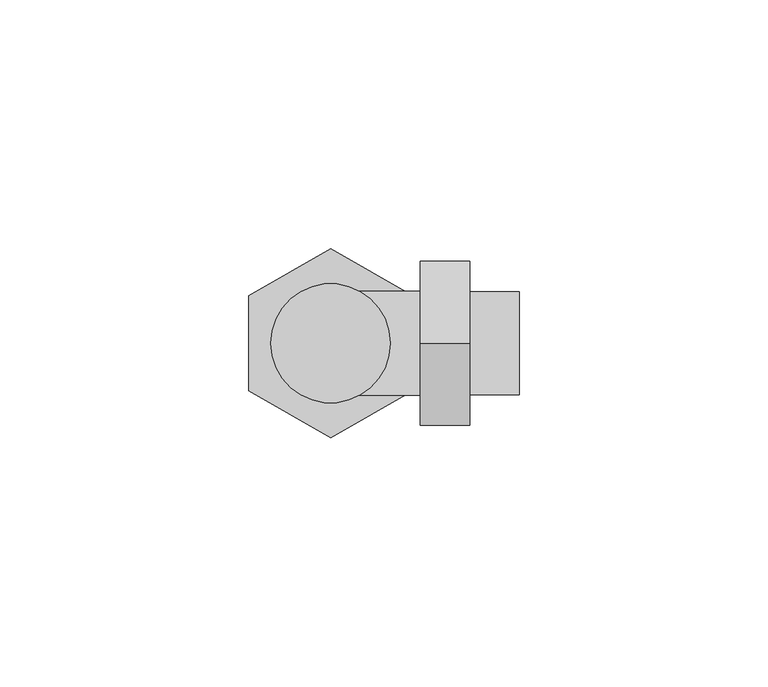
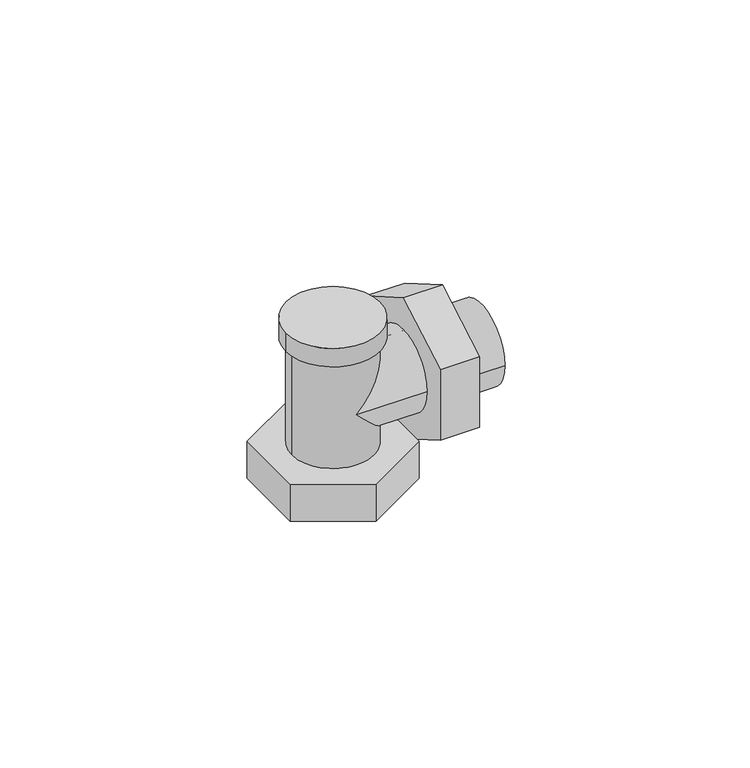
"""IFC4 building model written with IfcOpenShell, lengths in millimetres: pipe fitting geometry, Р_07_Клапан настроечный угловой для радиатора : Белый цвет."""

from ifc_helpers import new_model, si_unit, point, frame, origin, origin_2d, place, context, project, spatial, polyline, circle_curve, ellipse_curve, trimmed, segment, composite_curve, outline, extrude, source, transform, mapped, element, save
from ifc_brep_helpers import plane_surface, cylinder_surface, revolved_surface, advanced_brep


def pipe_fitting_38df7a3a(model_context):
    return source(origin(), model_context, "Body", "SolidModel", [
        advanced_brep(
        [(0.0, 7.9, 0.0), (0.0, -7.9, 0.0), (18.0, -7.9, 0.0), (18.0, 7.9, 0.0), (7.9, 0.0, -7.9), (18.0, -10.5, 0.0), (18.0, 10.5, 0.0), (0.0, -10.5, 0.0), (10.5, 0.0, -10.5), (0.0, 10.5, 0.0), (10.5, 0.0, 10.5), (-12.0, 0.0, 20.0), (12.0, 0.0, 20.0), (-10.5, 0.0, -13.5), (10.5, 0.0, -13.5), (-7.9, 0.0, -13.5), (7.9, 0.0, -13.5), (10.5, 0.0, 15.0), (-10.5, 0.0, 15.0), (-12.0, 0.0, 15.0), (12.0, 0.0, 15.0), (-7.9, 0.0, 0.0)],
        [
            (0, 1, circle_curve(frame((0.0, 0.0, 0.0), z_axis=(1.0, 0.0, 0.0), x_axis=(0.0, 1.0, 0.0)), 7.9)),
            (1, 0),
            (1, 2),
            (2, 3, circle_curve(frame((18.0, 0.0, 0.0), z_axis=(1.0, 0.0, 0.0), x_axis=(0.0, 1.0, 0.0)), 7.9)),
            (3, 0),
            (0, 4, ellipse_curve(frame((0.0, 0.0, 0.0), z_axis=(-0.7071067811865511, 0.0, -0.7071067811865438), x_axis=(0.7071067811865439, 0.0, -0.7071067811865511)), 11.1722871, 7.9)),
            (4, 1, ellipse_curve(frame((0.0, 0.0, 0.0), z_axis=(-0.7071067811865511, 0.0, -0.7071067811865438), x_axis=(0.7071067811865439, 0.0, -0.7071067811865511)), 11.1722871, 7.9)),
            (3, 2, circle_curve(frame((18.0, 0.0, 0.0), z_axis=(1.0, 0.0, 0.0), x_axis=(0.0, 1.0, 0.0)), 7.9)),
            (5, 6, circle_curve(frame((18.0, 0.0, 0.0), z_axis=(1.0, 0.0, 0.0), x_axis=(0.0, 1.0, 0.0)), 10.5)),
            (6, 5, circle_curve(frame((18.0, 0.0, 0.0), z_axis=(1.0, 0.0, 0.0), x_axis=(0.0, 1.0, 0.0)), 10.5)),
            (5, 7),
            (7, 8, ellipse_curve(frame((0.0, 0.0, 0.0), z_axis=(0.7071067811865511, 0.0, 0.7071067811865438), x_axis=(0.7071067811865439, 0.0, -0.7071067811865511)), 14.8492424, 10.5)),
            (8, 9, ellipse_curve(frame((0.0, 0.0, 0.0), z_axis=(0.7071067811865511, 0.0, 0.7071067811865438), x_axis=(0.7071067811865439, 0.0, -0.7071067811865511)), 14.8492424, 10.5)),
            (9, 6),
            (9, 10, ellipse_curve(frame((0.0, 0.0, 0.0), z_axis=(0.7071067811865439, 0.0, -0.7071067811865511), x_axis=(0.7071067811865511, 0.0, 0.7071067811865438)), 14.8492424, 10.5)),
            (10, 7, ellipse_curve(frame((0.0, 0.0, 0.0), z_axis=(0.7071067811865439, 0.0, -0.7071067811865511), x_axis=(0.7071067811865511, 0.0, 0.7071067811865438)), 14.8492424, 10.5)),
            (11, 12, circle_curve(frame((0.0, 0.0, 20.0), z_axis=(0.0, 0.0, 1.0), x_axis=(1.0, 0.0, 0.0)), 12.0)),
            (12, 11, circle_curve(frame((0.0, 0.0, 20.0), z_axis=(0.0, 0.0, 1.0), x_axis=(1.0, 0.0, 0.0)), 12.0)),
            (13, 14, circle_curve(frame((0.0, 0.0, -13.5), z_axis=(0.0, 0.0, -1.0), x_axis=(1.0, 0.0, 0.0)), 10.5)),
            (14, 13, circle_curve(frame((0.0, 0.0, -13.5), z_axis=(0.0, 0.0, -1.0), x_axis=(1.0, 0.0, 0.0)), 10.5)),
            (15, 16, circle_curve(frame((0.0, 0.0, -13.5), z_axis=(0.0, 0.0, 1.0), x_axis=(1.0, 0.0, 0.0)), 7.9)),
            (16, 15, circle_curve(frame((0.0, 0.0, -13.5), z_axis=(0.0, 0.0, 1.0), x_axis=(1.0, 0.0, 0.0)), 7.9)),
            (14, 8),
            (10, 17),
            (17, 18, circle_curve(frame((0.0, 0.0, 15.0), z_axis=(0.0, 0.0, -1.0), x_axis=(1.0, 0.0, 0.0)), 10.5)),
            (18, 13),
            (18, 17, circle_curve(frame((0.0, 0.0, 15.0), z_axis=(0.0, 0.0, -1.0), x_axis=(1.0, 0.0, 0.0)), 10.5)),
            (19, 20, circle_curve(frame((0.0, 0.0, 15.0), z_axis=(0.0, 0.0, -1.0), x_axis=(1.0, 0.0, 0.0)), 12.0)),
            (20, 19, circle_curve(frame((0.0, 0.0, 15.0), z_axis=(0.0, 0.0, -1.0), x_axis=(1.0, 0.0, 0.0)), 12.0)),
            (11, 19),
            (20, 12),
            (1, 21, circle_curve(frame((0.0, 0.0, 0.0), z_axis=(0.0, 0.0, -1.0), x_axis=(1.0, 0.0, 0.0)), 7.9)),
            (21, 0, circle_curve(frame((0.0, 0.0, 0.0), z_axis=(0.0, 0.0, -1.0), x_axis=(1.0, 0.0, 0.0)), 7.9)),
            (15, 21),
            (4, 16),
        ],
        [
            plane_surface(frame((0.0, 7.9, 0.0), z_axis=(1.0, 0.0, 0.0), x_axis=(0.0, 0.0, -1.0))),
            revolved_surface(polyline([(18.0, 7.9, 0.0), (-7.8999999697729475, 7.9, 0.0)]), (0.0, 0.0, 0.0), (1.0, 0.0, 0.0)),
            revolved_surface(polyline([(18.0, 7.9, 0.0), (0.0, 7.9, 0.0)]), (0.0, 0.0, 0.0), (1.0, 0.0, 0.0)),
            plane_surface(frame((18.0, 10.5, 0.0), z_axis=(1.0, 0.0, 0.0), x_axis=(0.0, 0.0, 1.0))),
            cylinder_surface(frame((0.0, 0.0, 0.0), z_axis=(1.0, 0.0, 0.0), x_axis=(0.0, 1.0, 0.0)), 10.5),
            plane_surface(frame((10.5, 0.0, 20.0), z_axis=(0.0, 0.0, 1.0), x_axis=(0.0, 1.0, 0.0))),
            plane_surface(frame((10.5, 0.0, -13.5), z_axis=(0.0, 0.0, -1.0), x_axis=(0.0, -1.0, 0.0))),
            cylinder_surface(frame((0.0, 0.0, -13.5), z_axis=(0.0, 0.0, 1.0), x_axis=(1.0, 0.0, 0.0)), 10.5),
            plane_surface(frame((12.0, 0.0, 15.0), z_axis=(0.0, 0.0, -1.0), x_axis=(0.0, -1.0, 0.0))),
            cylinder_surface(frame((0.0, 0.0, 15.0), z_axis=(0.0, 0.0, 1.0), x_axis=(1.0, 0.0, 0.0)), 12.0),
            plane_surface(frame((7.9, 0.0, 0.0), z_axis=(0.0, 0.0, -1.0), x_axis=(0.0, 1.0, 0.0))),
            revolved_surface(polyline([(7.9, 0.0, 7.899999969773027), (7.9, 0.0, -13.5)]), (0.0, 0.0, -13.5), (0.0, 0.0, 1.0)),
        ],
        [
            (0, [[1, 2]]),
            (1, [[3, 4, 5, 6, 7]]),
            (2, [[-1, -5, 8, -3]]),
            (3, [[9, 10], [-4, -8]]),
            (4, [[-9, 11, 12, 13, 14]]),
            (4, [[-10, -14, 15, 16, -11]]),
            (5, [[17, 18]]),
            (6, [[19, 20], [21, 22]]),
            (7, [[-20, 23, -12, -16, 24, 25, 26]]),
            (7, [[-19, -26, 27, -24, -15, -13, -23]]),
            (8, [[28, 29], [-25, -27]]),
            (9, [[-17, 30, -29, 31]]),
            (9, [[-18, -31, -28, -30]]),
            (10, [[32, 33, -2]]),
            (11, [[34, -32, -7, 35, -21]]),
            (11, [[-34, -22, -35, -6, -33]]),
        ],
    ),
        extrude(outline(composite_curve([segment(trimmed(circle_curve(origin_2d(), 9.4), [point((-9.4, 0.0))], [point((9.4, 0.0))], False, "CARTESIAN"), True, "CONTINUOUS"), segment(trimmed(circle_curve(origin_2d(), 9.4), [point((9.4, 0.0))], [point((-9.4, 0.0))], False, "CARTESIAN"), True, "CONTINUOUS")], self_intersect=False), holes=[composite_curve([segment(trimmed(circle_curve(origin_2d(), 7.9), [point((-7.9, 0.0))], [point((7.9, 0.0))], True, "CARTESIAN"), True, "CONTINUOUS"), segment(trimmed(circle_curve(origin_2d(), 7.9), [point((7.9, 0.0))], [point((-7.9, 0.0))], True, "CARTESIAN"), True, "CONTINUOUS")], self_intersect=False)]), frame((0.0, 0.0, -13.5), z_axis=(0.0, 0.0, 1.0), x_axis=(1.0, 0.0, 0.0)), (0.0, 0.0, 1.0), 2.0),
        extrude(outline(polyline([(-16.5, 9.5262794), (0.0, 19.0525589), (16.5, 9.5262794), (16.5, -9.5262794), (0.0, -19.0525589), (-16.5, -9.5262794), (-16.5, 9.5262794)]), holes=[composite_curve([segment(trimmed(circle_curve(origin_2d(), 9.4), [point((-9.4, 0.0))], [point((9.4, 0.0))], True, "CARTESIAN"), True, "CONTINUOUS"), segment(trimmed(circle_curve(origin_2d(), 9.4), [point((9.4, 0.0))], [point((-9.4, 0.0))], True, "CARTESIAN"), True, "CONTINUOUS")], self_intersect=False)]), frame((0.0, 0.0, -23.5), z_axis=(0.0, 0.0, 1.0), x_axis=(1.0, 0.0, 0.0)), (0.0, 0.0, 1.0), 10.0),
        extrude(outline(polyline([(-16.5, 9.5262794), (0.0, 19.0525589), (16.5, 9.5262794), (16.5, -9.5262794), (0.0, -19.0525589), (-16.5, -9.5262794), (-16.5, 9.5262794)]), holes=[composite_curve([segment(trimmed(circle_curve(origin_2d(), 7.9), [point((-7.9, 0.0))], [point((7.9, 0.0))], True, "CARTESIAN"), True, "CONTINUOUS"), segment(trimmed(circle_curve(origin_2d(), 7.9), [point((7.9, 0.0))], [point((-7.9, 0.0))], True, "CARTESIAN"), True, "CONTINUOUS")], self_intersect=False)]), frame((18.0, 0.0, 0.0), z_axis=(1.0, 0.0, 0.0), x_axis=(0.0, 1.0, 0.0)), (0.0, 0.0, 1.0), 10.0),
        advanced_brep(
        [(38.0, -10.4, 0.0), (38.0, 10.4, 0.0), (38.0, -7.9, 0.0), (38.0, 7.9, 0.0), (18.0, -10.4, 0.0), (18.0, 10.4, 0.0), (18.0, -7.9, 0.0), (18.0, 7.9, 0.0), (28.0, -7.9, 0.0), (28.0, 7.9, 0.0)],
        [
            (0, 1, circle_curve(frame((38.0, 0.0, 0.0), z_axis=(1.0, 0.0, 0.0), x_axis=(0.0, 1.0, 0.0)), 10.4)),
            (1, 0, circle_curve(frame((38.0, 0.0, 0.0), z_axis=(1.0, 0.0, 0.0), x_axis=(0.0, 1.0, 0.0)), 10.4)),
            (2, 3, circle_curve(frame((38.0, 0.0, 0.0), z_axis=(-1.0, 0.0, 0.0), x_axis=(0.0, 1.0, 0.0)), 7.9)),
            (3, 2, circle_curve(frame((38.0, 0.0, 0.0), z_axis=(-1.0, 0.0, 0.0), x_axis=(0.0, 1.0, 0.0)), 7.9)),
            (4, 5, circle_curve(frame((18.0, 0.0, 0.0), z_axis=(-1.0, 0.0, 0.0), x_axis=(0.0, 1.0, 0.0)), 10.4)),
            (5, 4, circle_curve(frame((18.0, 0.0, 0.0), z_axis=(-1.0, 0.0, 0.0), x_axis=(0.0, 1.0, 0.0)), 10.4)),
            (6, 7, circle_curve(frame((18.0, 0.0, 0.0), z_axis=(1.0, 0.0, 0.0), x_axis=(0.0, 1.0, 0.0)), 7.9)),
            (7, 6, circle_curve(frame((18.0, 0.0, 0.0), z_axis=(1.0, 0.0, 0.0), x_axis=(0.0, 1.0, 0.0)), 7.9)),
            (0, 4),
            (5, 1),
            (2, 8),
            (8, 6),
            (7, 9),
            (9, 3),
        ],
        [
            plane_surface(frame((38.0, 10.4, 0.0), z_axis=(1.0, 0.0, 0.0), x_axis=(0.0, 0.0, 1.0))),
            plane_surface(frame((18.0, 10.4, 0.0), z_axis=(-1.0, 0.0, 0.0), x_axis=(0.0, 0.0, -1.0))),
            cylinder_surface(frame((18.0, 0.0, 0.0), z_axis=(1.0, 0.0, 0.0), x_axis=(0.0, 1.0, 0.0)), 10.4),
            revolved_surface(polyline([(18.0, 7.9, 0.0), (38.0, 7.9, 0.0)]), (0.0, 0.0, 0.0), (-1.0, 0.0, 0.0)),
        ],
        [
            (0, [[1, 2], [3, 4]]),
            (1, [[5, 6], [7, 8]]),
            (2, [[-1, 9, -6, 10]]),
            (2, [[-2, -10, -5, -9]]),
            (3, [[-3, 11, 12, -8, 13, 14]]),
            (3, [[-4, -14, -13, -7, -12, -11]]),
        ],
    ),
    ])


if __name__ == "__main__":
    model = new_model("IFC4")
    model_context = context("Model", 3, world=origin())
    ifc_project = project(units=[si_unit("LENGTHUNIT", "METRE", prefix="MILLI")], contexts=[model_context])
    site = spatial("IfcSite", under=ifc_project)
    building = spatial("IfcBuilding", under=site)
    placement = place(None, origin())
    pipe_fitting_shape = pipe_fitting_38df7a3a(model_context)
    element("IfcPipeFitting", 1, ObjectType="Р_07_Клапан настроечный угловой для радиатора : Белый цвет", at=placement, inside=building, context=model_context, shape_type="MappedRepresentation", body=[
        mapped(pipe_fitting_shape, transform((0.0, 0.0, 0.0), x_axis=(1.0, 0.0, 0.0), y_axis=(0.0, 1.0, 0.0), z_axis=(0.0, 0.0, 1.0))),
    ])
    save(model, "model.ifc")
